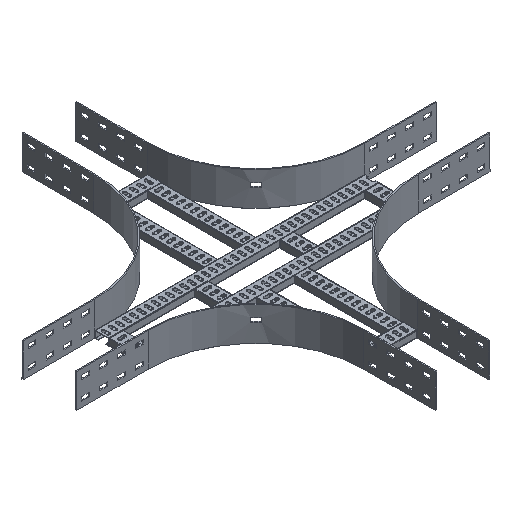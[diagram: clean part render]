
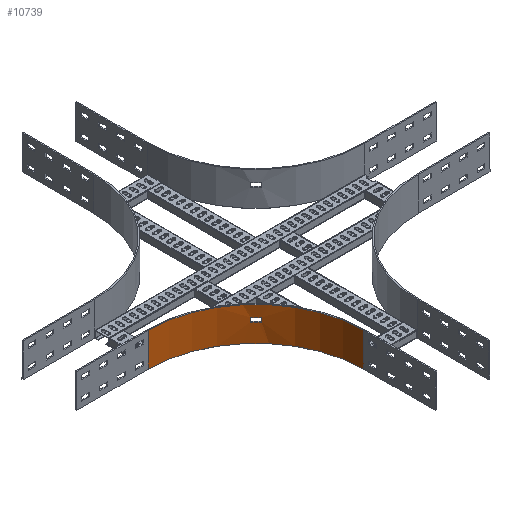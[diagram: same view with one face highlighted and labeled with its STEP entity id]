
A CAD part, isometric view. The second image highlights one B-rep face of the part: STEP entity #10739.
In plain terms, the highlighted cylindrical face has radius 300 mm (diameter 600 mm), a partial arc.
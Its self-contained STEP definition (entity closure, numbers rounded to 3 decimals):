
#307=FACE_BOUND('',#1533,.T.);
#495=CYLINDRICAL_SURFACE('',#11323,300.);
#540=CIRCLE('',#11315,300.);
#545=CIRCLE('',#11322,300.);
#546=CIRCLE('',#11324,300.);
#547=CIRCLE('',#11325,300.);
#975=FACE_OUTER_BOUND('',#1532,.T.);
#1532=EDGE_LOOP('',(#7280,#7281,#7282,#7283));
#1533=EDGE_LOOP('',(#7284,#7285,#7286,#7287));
#2275=LINE('',#15043,#3431);
#2277=LINE('',#15049,#3433);
#2282=LINE('',#15073,#3438);
#2283=LINE('',#15076,#3439);
#3431=VECTOR('',#12199,304.8);
#3433=VECTOR('',#12203,304.8);
#3438=VECTOR('',#12230,304.8);
#3439=VECTOR('',#12233,304.8);
#4584=VERTEX_POINT('',#15036);
#4587=VERTEX_POINT('',#15041);
#4589=VERTEX_POINT('',#15046);
#4590=VERTEX_POINT('',#15048);
#4596=VERTEX_POINT('',#15069);
#4597=VERTEX_POINT('',#15070);
#4598=VERTEX_POINT('',#15072);
#4599=VERTEX_POINT('',#15074);
#5651=EDGE_CURVE('',#4587,#4584,#2275,.T.);
#5653=EDGE_CURVE('',#4589,#4590,#2277,.T.);
#5656=EDGE_CURVE('',#4584,#4589,#540,.T.);
#5663=EDGE_CURVE('',#4590,#4587,#545,.T.);
#5664=EDGE_CURVE('',#4596,#4597,#546,.T.);
#5665=EDGE_CURVE('',#4597,#4598,#2282,.T.);
#5666=EDGE_CURVE('',#4598,#4599,#547,.T.);
#5667=EDGE_CURVE('',#4599,#4596,#2283,.T.);
#7280=ORIENTED_EDGE('',*,*,#5651,.F.);
#7281=ORIENTED_EDGE('',*,*,#5663,.F.);
#7282=ORIENTED_EDGE('',*,*,#5653,.F.);
#7283=ORIENTED_EDGE('',*,*,#5656,.F.);
#7284=ORIENTED_EDGE('',*,*,#5664,.T.);
#7285=ORIENTED_EDGE('',*,*,#5665,.T.);
#7286=ORIENTED_EDGE('',*,*,#5666,.T.);
#7287=ORIENTED_EDGE('',*,*,#5667,.T.);
#10739=ADVANCED_FACE('',(#975,#307),#495,.F.);
#11315=AXIS2_PLACEMENT_3D('',#15054,#12208,#12209);
#11322=AXIS2_PLACEMENT_3D('',#15067,#12224,#12225);
#11323=AXIS2_PLACEMENT_3D('',#15068,#12226,#12227);
#11324=AXIS2_PLACEMENT_3D('',#15071,#12228,#12229);
#11325=AXIS2_PLACEMENT_3D('',#15075,#12231,#12232);
#12199=DIRECTION('',(0.,0.,1.));
#12203=DIRECTION('',(0.,0.,-1.));
#12208=DIRECTION('center_axis',(0.,0.,-1.));
#12209=DIRECTION('ref_axis',(0.,1.,0.));
#12224=DIRECTION('center_axis',(0.,0.,1.));
#12225=DIRECTION('ref_axis',(0.,1.,0.));
#12226=DIRECTION('center_axis',(0.,0.,-1.));
#12227=DIRECTION('ref_axis',(0.,1.,0.));
#12228=DIRECTION('center_axis',(0.,0.,-1.));
#12229=DIRECTION('ref_axis',(0.,1.,0.));
#12230=DIRECTION('',(0.,0.,-1.));
#12231=DIRECTION('center_axis',(0.,0.,1.));
#12232=DIRECTION('ref_axis',(0.,1.,0.));
#12233=DIRECTION('',(0.,0.,1.));
#15036=CARTESIAN_POINT('',(-376.,-76.,47.));
#15041=CARTESIAN_POINT('',(-376.,-76.,-47.));
#15043=CARTESIAN_POINT('',(-376.,-76.,-47.));
#15046=CARTESIAN_POINT('',(-76.,-376.,47.));
#15048=CARTESIAN_POINT('',(-76.,-376.,-47.));
#15049=CARTESIAN_POINT('',(-76.,-376.,47.));
#15054=CARTESIAN_POINT('Origin',(-376.,-376.,47.));
#15067=CARTESIAN_POINT('Origin',(-376.,-376.,-47.));
#15068=CARTESIAN_POINT('Origin',(-376.,-376.,0.));
#15069=CARTESIAN_POINT('',(-171.76,-156.259,15.5));
#15070=CARTESIAN_POINT('',(-156.206,-171.818,15.5));
#15071=CARTESIAN_POINT('Origin',(-376.,-376.,15.5));
#15072=CARTESIAN_POINT('',(-156.206,-171.818,4.5));
#15073=CARTESIAN_POINT('',(-156.206,-171.818,15.5));
#15074=CARTESIAN_POINT('',(-171.76,-156.259,4.5));
#15075=CARTESIAN_POINT('Origin',(-376.,-376.,4.5));
#15076=CARTESIAN_POINT('',(-171.76,-156.259,4.5));
